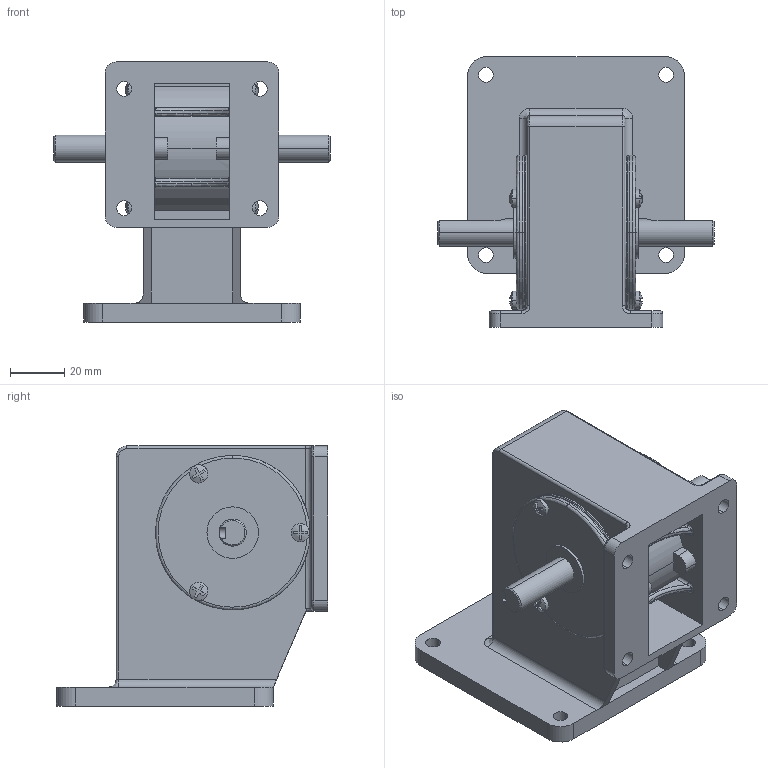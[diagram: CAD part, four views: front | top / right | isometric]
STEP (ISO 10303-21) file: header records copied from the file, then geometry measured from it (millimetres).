
FILE_DESCRIPTION (( 'STEP AP203' ), '1' );
FILE_NAME ('(12-17) 8WD｡滷RL.STEP', '2022-01-12T01:17:10', ( '' ), ( '' ), 'SwSTEP 2.0', 'SolidWorks 2018', '' );
FILE_SCHEMA (( 'CONFIG_CONTROL_DESIGN' ));
Length unit declared in the file: millimetre
Products named in the file (1): (12-17) 8WD｡滷RL
Bounding box: 102 x 100 x 96 mm (x, y, z)
Volume: 231176.1 mm3; surface area: 53418.8 mm2
Topology: 1 solids, 1 shells, 312 faces, 817 edges, 518 vertices
Faces by surface type: plane 149, cylinder 108, bspline 45, cone 6, torus 4
Entity records: 12411 total; most frequent: CARTESIAN_POINT 4968, ORIENTED_EDGE 1634, DIRECTION 1437, EDGE_CURVE 817, VERTEX_POINT 518, AXIS2_PLACEMENT_3D 517, VECTOR 403, LINE 403
